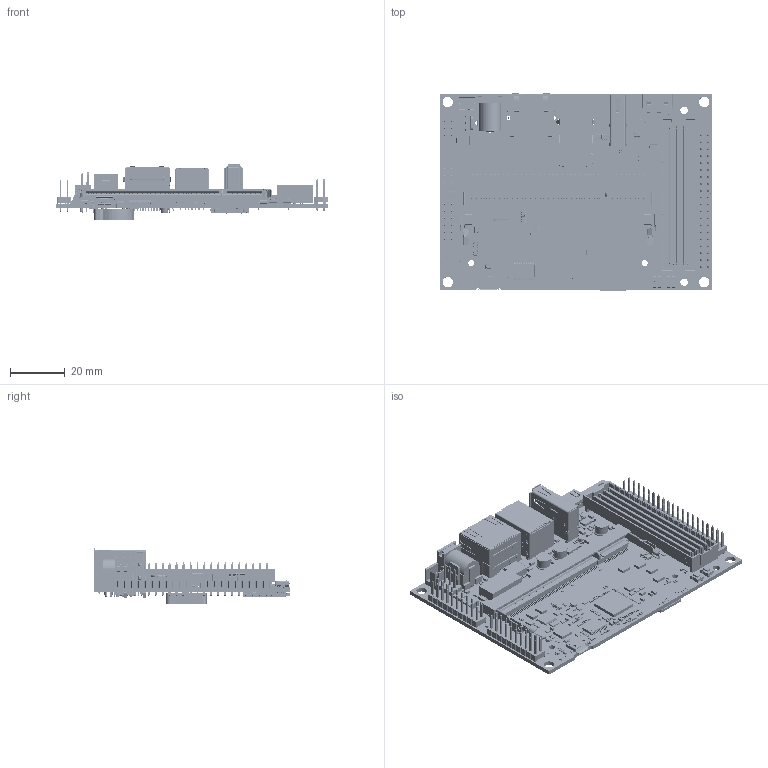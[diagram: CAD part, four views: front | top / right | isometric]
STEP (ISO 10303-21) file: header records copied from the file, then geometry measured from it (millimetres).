
FILE_DESCRIPTION(/* description */ (''),/* implementation_level */ '2;1');
FILE_NAME(/* name */ 'C:\Mars_PM3-C_3D_Step_Model.stp',/* time_stamp */ '2014-10-31T16:08:52+01:00',/* author */ ('Peter Clements'),/* organization */ ('Enclustra GmbH - Switzerland'),/* preprocessor_version */ '',/* originating_system */ '',/* authorisation */ 'Free Distribution');
FILE_SCHEMA (('AUTOMOTIVE_DESIGN { 1 0 10303 214 3 1 1 }'));
Products named in the file (2): MA-PM3-C_3D-Step_Substitute_1; MA-PM3-C_3D-Step
Bounding box: 100 x 72.15 x 20.23 mm (x, y, z)
Surface area: 46998 mm2 (no closed solid volume)
Topology: 0 solids, 2501 shells, 26083 faces, 74017 edges, 51502 vertices
Faces by surface type: plane 21631, cylinder 3053, bspline 1245, sphere 68, torus 56, cone 30
Full cylindrical faces by diameter (mm): 0.3 x8, 0.4 x8, 0.6 x7, 0.602 x1, 0.7 x7, 0.85 x1, 0.889 x1, 0.9 x22, 1 x84, 1.1 x1, 1.194 x1, 1.3 x10, 1.35 x1, 1.6 x1, 1.7 x2, 2 x1, 2.2 x2, 2.3 x2, 3.2 x2, 3.8 x4, 4.9 x3, 5.5 x6, 6.5 x1
Entity records: 929317 total; most frequent: CARTESIAN_POINT 228523, ORIENTED_EDGE 136381, DIRECTION 127234, EDGE_CURVE 73726, LINE 64714, VECTOR 64714, VERTEX_POINT 51484, AXIS2_PLACEMENT_3D 31260
